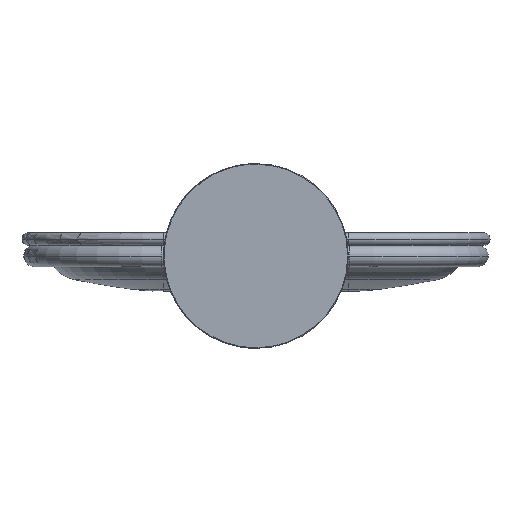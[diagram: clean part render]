
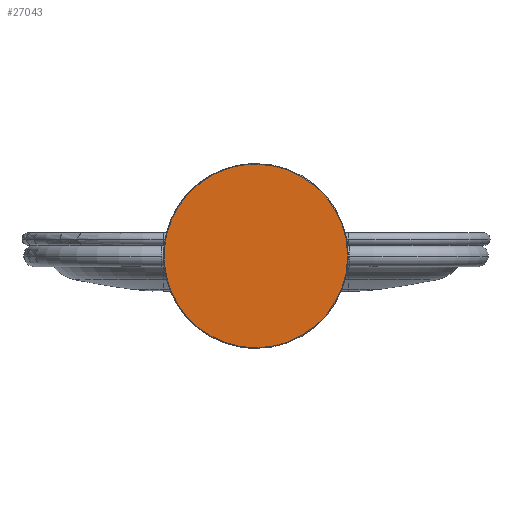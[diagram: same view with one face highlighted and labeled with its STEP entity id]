
A CAD part, front view. The second image highlights one B-rep face of the part: STEP entity #27043.
In plain terms, the highlighted planar face has unit normal (0, -1, 0).
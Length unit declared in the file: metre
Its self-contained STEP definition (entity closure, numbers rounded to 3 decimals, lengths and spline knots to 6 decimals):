
#25514=EDGE_CURVE('',#25515,#25517,#25519,.F.);
#25515=VERTEX_POINT('',#25516);
#25516=CARTESIAN_POINT('',(0.0,-0.014,-0.0298));
#25517=VERTEX_POINT('',#25518);
#25518=CARTESIAN_POINT('',(0.0,-0.014,0.0298));
#25519=CIRCLE('',#25520,0.0298);
#25520=AXIS2_PLACEMENT_3D('',#25521,#25522,#25523);
#25521=CARTESIAN_POINT('',(0.0,-0.014,0.0));
#25522=DIRECTION('',(0.0,1.0,0.0));
#25523=DIRECTION('',(0.0,0.0,1.0));
#27043=ADVANCED_FACE('',(#27049),#27044,.F.);
#27044=PLANE('',#27045);
#27045=AXIS2_PLACEMENT_3D('',#27046,#27047,#27048);
#27046=CARTESIAN_POINT('',(0.0,-0.014,0.03));
#27047=DIRECTION('',(0.0,1.0,0.0));
#27048=DIRECTION('',(0.0,0.0,1.0));
#27049=FACE_OUTER_BOUND('',#27050,.T.);
#27050=EDGE_LOOP('',(#27051,#27059));
#27051=ORIENTED_EDGE('',*,*,#27053,.T.);
#27052=CARTESIAN_POINT('',(0.0,-0.014,-0.0298));
#27053=EDGE_CURVE('',#25517,#25515,#27054,.F.);
#27054=(B_SPLINE_CURVE(3,(#27052,#27055,#27056,#27057),.UNSPECIFIED.,.F.,
  .U.)B_SPLINE_CURVE_WITH_KNOTS((4,4),(0.0,1.0),.UNSPECIFIED.)BOUNDED_CURVE(
  )CURVE()GEOMETRIC_REPRESENTATION_ITEM()RATIONAL_B_SPLINE_CURVE((1.0,
  0.333,0.333,1.0))REPRESENTATION_ITEM(''));
#27055=CARTESIAN_POINT('',(-0.0596,-0.014,-0.0298));
#27056=CARTESIAN_POINT('',(-0.0596,-0.014,0.0298));
#27057=CARTESIAN_POINT('',(0.0,-0.014,0.0298));
#27059=ORIENTED_EDGE('',*,*,#25514,.T.);
